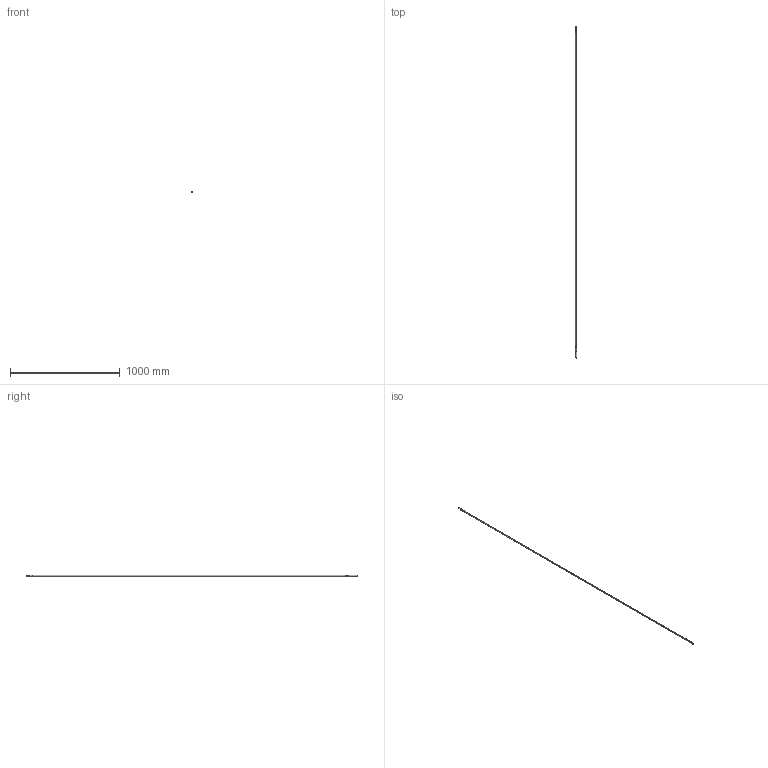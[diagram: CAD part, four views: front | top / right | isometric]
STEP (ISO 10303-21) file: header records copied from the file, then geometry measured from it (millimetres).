
FILE_DESCRIPTION (( 'STEP AP214' ), '1' );
FILE_NAME ('TPL-H-010.STEP', '2024-07-11T04:22:27', ( '' ), ( '' ), 'SwSTEP 2.0', 'SolidWorks 2023', '' );
FILE_SCHEMA (( 'AUTOMOTIVE_DESIGN' ));
Length unit declared in the file: millimetre
Products named in the file (5): Copy of LKC-570 Bolt double flat 12.7mm dia 8.5mm AF - simplified^Hollow rod with bolt and adaptor; TPL-H-010; Copy of LKC-532 Rod connector - simplified^Hollow rod with bolt and adaptor; Copy of LKC-540 Transmission rod aluminium system TPLGen2^Hollow rod with bolt and adaptor_2885mm; Copy of LKC-576 Bolt adaptor - simplified^Hollow rod with bolt and adaptor
Assembly tree (4 placements, depth 2):
  TPL-H-010
    Copy of LKC-532 Rod connector - simplified^Hollow rod with bolt and adaptor
    Copy of LKC-540 Transmission rod aluminium system TPLGen2^Hollow rod with bolt and adaptor_2885mm
    Copy of LKC-576 Bolt adaptor - simplified^Hollow rod with bolt and adaptor
    Copy of LKC-570 Bolt double flat 12.7mm dia 8.5mm AF - simplified^Hollow rod with bolt and adaptor
Bounding box: 12.69 x 3021 x 12.7 mm (x, y, z)
Volume: 154405.7 mm3; surface area: 193963.1 mm2
Topology: 4 solids, 4 shells, 99 faces, 240 edges, 145 vertices
Faces by surface type: cylinder 40, cone 28, plane 27, torus 2, sphere 2
Entity records: 3150 total; most frequent: CARTESIAN_POINT 705, DIRECTION 526, ORIENTED_EDGE 448, EDGE_CURVE 224, AXIS2_PLACEMENT_3D 212, VERTEX_POINT 143, EDGE_LOOP 111, CIRCLE 106
